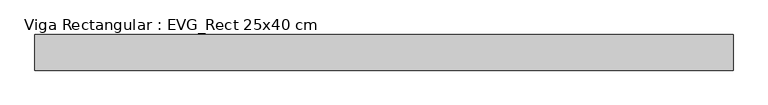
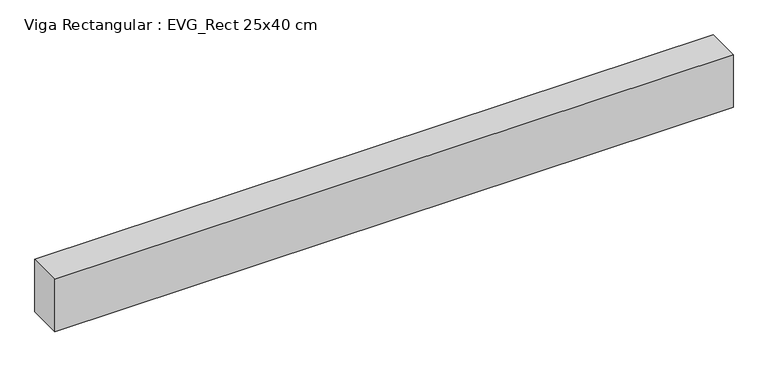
"""IFC4 building model written with IfcOpenShell, lengths in millimetres: beam geometry, Viga Rectangular : EVG_Rect 25x40 cm."""

from ifc_helpers import new_model, si_unit, frame, origin, place, context, project, spatial, polyline, outline, extrude, source, transform, mapped, element, save


def viga_rectangular_evg_rect_25x40_cm_19945e5e(model_context):
    return source(origin(), model_context, "Body", "SweptSolid", [
        extrude(outline(polyline([(2487.5, 125.0), (2487.5, -125.0), (-2412.5, -125.0), (-2412.5, 125.0), (2487.5, 125.0)])), frame((0.0, 0.0, -400.0), z_axis=(0.0, 0.0, 1.0), x_axis=(1.0, 0.0, 0.0)), (0.0, 0.0, 1.0), 400.0),
    ])


if __name__ == "__main__":
    model = new_model("IFC4")
    model_context = context("Model", 3, world=origin())
    ifc_project = project(units=[si_unit("LENGTHUNIT", "METRE", prefix="MILLI")], contexts=[model_context])
    site = spatial("IfcSite", under=ifc_project)
    building = spatial("IfcBuilding", under=site)
    placement = place(None, origin())
    viga_rectangular_evg_rect_25x40_cm_shape = viga_rectangular_evg_rect_25x40_cm_19945e5e(model_context)
    element("IfcBeam", 1, ObjectType="Viga Rectangular : EVG_Rect 25x40 cm", at=placement, inside=building, context=model_context, shape_type="MappedRepresentation", body=[
        mapped(viga_rectangular_evg_rect_25x40_cm_shape, transform((0.0, 0.0, 0.0), x_axis=(1.0, 0.0, 0.0), y_axis=(0.0, 1.0, 0.0), z_axis=(0.0, 0.0, 1.0))),
    ])
    save(model, "model.ifc")
